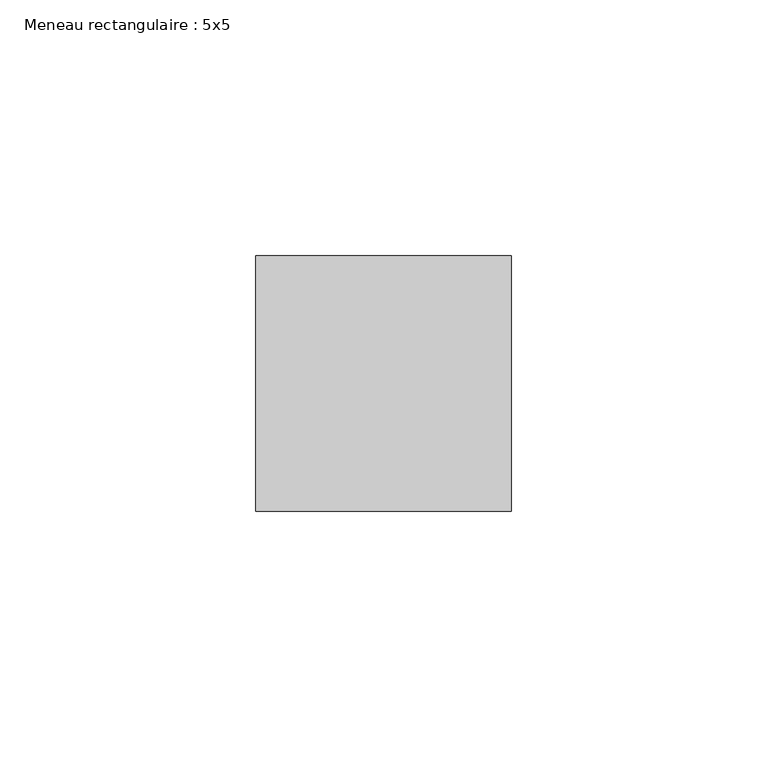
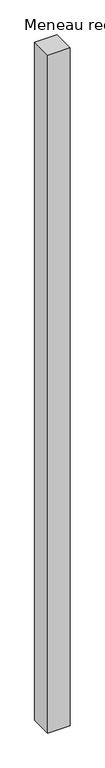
"""IFC4 building model written with IfcOpenShell, lengths in millimetres: member geometry, Meneau rectangulaire : 5x5."""

import ifcopenshell
import ifcopenshell.guid

model = None  # the IFC model being written
_history = None  # IfcOwnerHistory: only IFC2X3 demands one
_inside = {}  # id of a spatial element -> (the spatial element, [elements in it])
_under = {}  # id of a project, library or spatial element -> (it, [spatial elements below it])
_declared = {}  # id of a project -> (the project, [libraries it declares])
_typed = {}  # id of a type object -> (the type object, [elements of that type])
_made_of = {}  # id of a material, layer set ... -> (it, [elements and type objects made of it])


def new_model(schema):
    """Start an empty IFC model of exactly this schema.

    Asked for "IFC4X3", IfcOpenShell would pick the latest addendum, in which some entities
    have other attributes; the version numbers below select the first issue.
    IFC2X3 requires an IfcOwnerHistory on every rooted entity: one is made here for all.
    """
    global model, _history
    if schema == "IFC4X3":
        model = ifcopenshell.file(schema_version=(4, 3, 0, 0))
    else:
        model = ifcopenshell.file(schema=schema)
    _inside.clear()
    _under.clear()
    _declared.clear()
    _typed.clear()
    _made_of.clear()
    _history = None
    if model.schema == "IFC2X3":
        org = make("IfcOrganization", Name="unknown")
        user = make(
            "IfcPersonAndOrganization",
            ThePerson=make("IfcPerson", FamilyName="unknown"),
            TheOrganization=org,
        )
        app = make(
            "IfcApplication",
            ApplicationDeveloper=org,
            Version="unknown",
            ApplicationFullName="unknown",
            ApplicationIdentifier="unknown",
        )
        _history = make(
            "IfcOwnerHistory",
            OwningUser=user,
            OwningApplication=app,
            ChangeAction="ADDED",
            CreationDate=0,
        )
    return model


def make(cls, **values):
    """One entity of the class cls with the attributes given. An attribute that is None is left unset."""
    return model.create_entity(
        cls, **{name: value for name, value in values.items() if value is not None}
    )


def rooted(cls, **values):
    """An entity with a GlobalId (a new one), such as an element, a storey or a relation."""
    return make(cls, GlobalId=ifcopenshell.guid.new(), OwnerHistory=_history, **values)


def si_unit(unit_type, name, prefix=None):
    """IfcSIUnit, for example si_unit("LENGTHUNIT", "METRE", prefix="MILLI")."""
    return make("IfcSIUnit", UnitType=unit_type, Prefix=prefix, Name=name)


def assignment(units):
    """IfcUnitAssignment: the units of a project."""
    return None if units is None else make("IfcUnitAssignment", Units=units)


def point(xyz):
    """IfcCartesianPoint."""
    return None if xyz is None else make("IfcCartesianPoint", Coordinates=xyz)


def direction(xyz):
    """IfcDirection."""
    return None if xyz is None else make("IfcDirection", DirectionRatios=xyz)


def frame(location, z_axis=None, x_axis=None):
    """IfcAxis2Placement3D, a coordinate frame: its origin and axes. An axis left out is left unset."""
    return make(
        "IfcAxis2Placement3D",
        Location=point(location),
        Axis=direction(z_axis),
        RefDirection=direction(x_axis),
    )


def origin():
    """The frame at (0, 0, 0) with its axes left unset."""
    return frame((0.0, 0.0, 0.0))


def place(relative_to, where):
    """IfcLocalPlacement: puts the frame where relative to a parent placement (None: the world)."""
    return make(
        "IfcLocalPlacement", PlacementRelTo=relative_to, RelativePlacement=where
    )


def context(
    kind, dimensions, precision=None, world=None, true_north=None, identifier=None
):
    """IfcGeometricRepresentationContext, for example the 3D "Model" context."""
    return make(
        "IfcGeometricRepresentationContext",
        ContextIdentifier=identifier,
        ContextType=kind,
        CoordinateSpaceDimension=dimensions,
        Precision=precision,
        WorldCoordinateSystem=world,
        TrueNorth=true_north,
    )


def project(units=None, contexts=None):
    """IfcProject with its units and contexts."""
    return rooted(
        "IfcProject",
        Name="project",
        RepresentationContexts=contexts,
        UnitsInContext=assignment(units),
    )


def spatial(cls, under=None, at=None, **own):
    """A site, building, storey or space (cls), placed at a placement, below another one or the project."""
    s = rooted(cls, ObjectPlacement=at, **own)
    if under is not None:
        _under.setdefault(under.id(), (under, []))[1].append(s)
    return s


def polyline(points):
    """IfcPolyline through the points."""
    return make("IfcPolyline", Points=[point(p) for p in points])


def outline(outer, holes=None, kind="AREA"):
    """IfcArbitraryClosedProfileDef: a profile drawn as a closed curve; with holes, ...WithVoids."""
    if holes is None:
        return make("IfcArbitraryClosedProfileDef", ProfileType=kind, OuterCurve=outer)
    return make(
        "IfcArbitraryProfileDefWithVoids",
        ProfileType=kind,
        OuterCurve=outer,
        InnerCurves=holes,
    )


def extrude(swept, where, along, depth):
    """IfcExtrudedAreaSolid: the profile swept, set in the frame where, extruded along a direction by depth."""
    return make(
        "IfcExtrudedAreaSolid",
        SweptArea=swept,
        Position=where,
        ExtrudedDirection=direction(along),
        Depth=depth,
    )


def shape(context_of_items, identifier, shape_type, items):
    """IfcShapeRepresentation: the items that make up one representation, for example the "Body"."""
    return make(
        "IfcShapeRepresentation",
        ContextOfItems=context_of_items,
        RepresentationIdentifier=identifier,
        RepresentationType=shape_type,
        Items=items,
    )


def source(mapping_origin, context_of_items, identifier, shape_type, items):
    """IfcRepresentationMap: a shape defined once, which mapped items show again and again."""
    return make(
        "IfcRepresentationMap",
        MappingOrigin=mapping_origin,
        MappedRepresentation=shape(context_of_items, identifier, shape_type, items),
    )


def transform(
    local_origin,
    x_axis=None,
    y_axis=None,
    z_axis=None,
    scale=None,
    scale2=None,
    scale3=None,
    uniform=True,
):
    """IfcCartesianTransformationOperator3D, or its non-uniform kind. x_axis, y_axis, z_axis: its Axis1, 2, 3."""
    if uniform:
        return make(
            "IfcCartesianTransformationOperator3D",
            Axis1=direction(x_axis),
            Axis2=direction(y_axis),
            LocalOrigin=point(local_origin),
            Scale=scale,
            Axis3=direction(z_axis),
        )
    return make(
        "IfcCartesianTransformationOperator3DnonUniform",
        Axis1=direction(x_axis),
        Axis2=direction(y_axis),
        LocalOrigin=point(local_origin),
        Scale=scale,
        Axis3=direction(z_axis),
        Scale2=scale2,
        Scale3=scale3,
    )


def mapped(mapping_source, mapping_target):
    """IfcMappedItem: shows the shape of a source again, moved by a transform."""
    return make(
        "IfcMappedItem", MappingSource=mapping_source, MappingTarget=mapping_target
    )


def made_of(thing, what):
    """Note that an element or type object is made of a material, layer set ...; save() writes the relation."""
    if what is not None:
        _made_of.setdefault(what.id(), (what, []))[1].append(thing)
    return thing


def element(
    cls,
    number,
    at=None,
    inside=None,
    cuts=None,
    type_object=None,
    material=None,
    context=None,
    identifier="Body",
    shape_type=None,
    held_by="IfcProductDefinitionShape",
    body=None,
    shapes=None,
    **own,
):
    """One element of the class cls, such as IfcWall. Its Tag is "e" and its number.

    at: its placement. inside: the storey or other place that contains it. cuts: it is an
    opening in that element (IfcRelVoidsElement). A single representation is given by context,
    identifier, shape_type and body (its items); several are given by shapes. held_by: the class
    of the entity that holds the representations. save() writes the other relations.
    """
    e = rooted(cls, Tag="e%d" % number, ObjectPlacement=at, **own)
    if body is not None:
        shapes = [shape(context, identifier, shape_type, body)]
    if shapes is not None:
        e.Representation = make(held_by, Representations=shapes)
    if inside is not None:
        _inside.setdefault(inside.id(), (inside, []))[1].append(e)
    if cuts is not None:
        rooted(
            "IfcRelVoidsElement", RelatingBuildingElement=cuts, RelatedOpeningElement=e
        )
    if type_object is not None:
        _typed.setdefault(type_object.id(), (type_object, []))[1].append(e)
    return made_of(e, material)


def aggregate(whole, parts):
    """IfcRelAggregates: a whole, such as a stair, and the parts it consists of."""
    return rooted("IfcRelAggregates", RelatingObject=whole, RelatedObjects=parts)


def save(model, path):
    """Write the relations noted so far, then the file.

    IfcRelAggregates (storeys below a building ...), IfcRelContainedInSpatialStructure (elements
    in a storey), IfcRelDefinesByType, IfcRelAssociatesMaterial and IfcRelDeclares: one each for
    every whole, place, type object, material and project.
    """
    for whole, parts in _under.values():
        aggregate(whole, parts)
    for where, things in _inside.values():
        rooted(
            "IfcRelContainedInSpatialStructure",
            RelatedElements=things,
            RelatingStructure=where,
        )
    for kind, things in _typed.values():
        rooted("IfcRelDefinesByType", RelatedObjects=things, RelatingType=kind)
    for what, things in _made_of.values():
        rooted("IfcRelAssociatesMaterial", RelatedObjects=things, RelatingMaterial=what)
    for by, libraries in _declared.values():
        rooted("IfcRelDeclares", RelatingContext=by, RelatedDefinitions=libraries)
    model.write(path)


def meneau_rectangulaire_5x5_adc6bd0b(model_context):
    return source(origin(), model_context, "Body", "SweptSolid", [
        extrude(outline(polyline([(0.0, 25.0), (0.0, -25.0), (-50.0, -25.0), (-50.0, 25.0), (0.0, 25.0)])), frame((0.0, 0.0, -1590.9208833), z_axis=(0.0, 0.0, 1.0), x_axis=(1.0, 0.0, 0.0)), (0.0, 0.0, 1.0), 1590.9208833),
    ])


if __name__ == "__main__":
    model = new_model("IFC4")
    model_context = context("Model", 3, world=origin())
    ifc_project = project(units=[si_unit("LENGTHUNIT", "METRE", prefix="MILLI")], contexts=[model_context])
    site = spatial("IfcSite", under=ifc_project)
    building = spatial("IfcBuilding", under=site)
    placement = place(None, origin())
    meneau_rectangulaire_5x5_shape = meneau_rectangulaire_5x5_adc6bd0b(model_context)
    element("IfcMember", 1, ObjectType="Meneau rectangulaire : 5x5", at=placement, inside=building, context=model_context, shape_type="MappedRepresentation", body=[
        mapped(meneau_rectangulaire_5x5_shape, transform((0.0, 0.0, 0.0), x_axis=(1.0, 0.0, 0.0), y_axis=(0.0, 1.0, 0.0), z_axis=(0.0, 0.0, 1.0))),
    ])
    save(model, "model.ifc")
